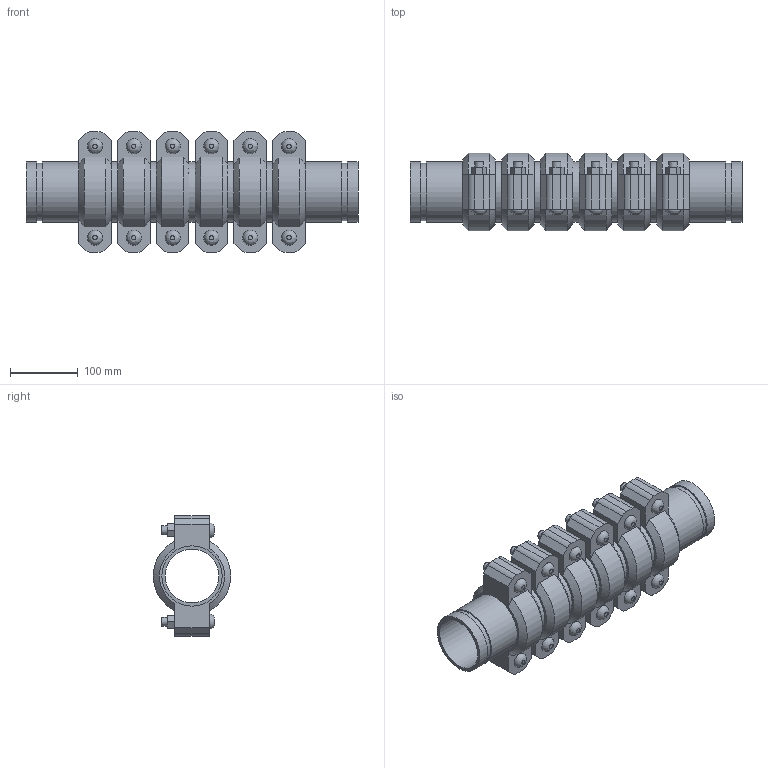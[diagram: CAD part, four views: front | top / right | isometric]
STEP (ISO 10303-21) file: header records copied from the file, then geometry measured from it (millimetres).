
FILE_DESCRIPTION(/* description */ ('VIC EXPANSION JOINT 6 COUPLINGS COMPRESSED STYLE 155 (OGS)','CAx-IF Rec.Pracs.---Representation and Presentation of Product Manufacturing Information (PMI)---4.0---2014-10-13'),/* implementation_level */ '2;1');
FILE_NAME(/* name */ 'C:\Users\kkamble\AppData\Roaming\Autodesk\ApplicationPlugins\Victaulic.Temp\A354\Victaulic_IPS_Expansion Joint_Compressed_6 Couplings_Style 155 (OGS)_3 (80).stp',/* time_stamp */ '2021-06-27T00:31:45+02:00',/* author */ ('kkamble'),/* organization */ ('Victaulic'),/* preprocessor_version */ 'ST-DEVELOPER v17.2',/* originating_system */ 'Autodesk Inventor 2019',/* authorisation */ '');
FILE_SCHEMA (('AP242_MANAGED_MODEL_BASED_3D_ENGINEERING_MIM_LF { 1 0 10303 442 1 1 4 }'));
Length unit declared in the file: inch
Products named in the file (4): 155-03.0; Nipple-03.0; Nipple-03.0_1; 075-03.0
Assembly tree (13 placements, depth 2):
  155-03.0
    Nipple-03.0  x2
    Nipple-03.0_1  x5
    075-03.0  x6
Bounding box: 488.95 x 113.88 x 177.8 mm (x, y, z)
Volume: 2550193 mm3; surface area: 645925.5 mm2
Topology: 13 solids, 25 shells, 402 faces, 972 edges, 684 vertices
Faces by surface type: plane 246, cylinder 120, cone 24, bspline 12
Full cylindrical faces by diameter (mm): 12.7 x24, 14.605 x12, 79.35 x7, 84.938 x14, 88.9 x27
Entity records: 2723 total; most frequent: CARTESIAN_POINT 483, DIRECTION 451, ORIENTED_EDGE 374, EDGE_CURVE 187, AXIS2_PLACEMENT_3D 180, VERTEX_POINT 134, EDGE_LOOP 101, LINE 91
